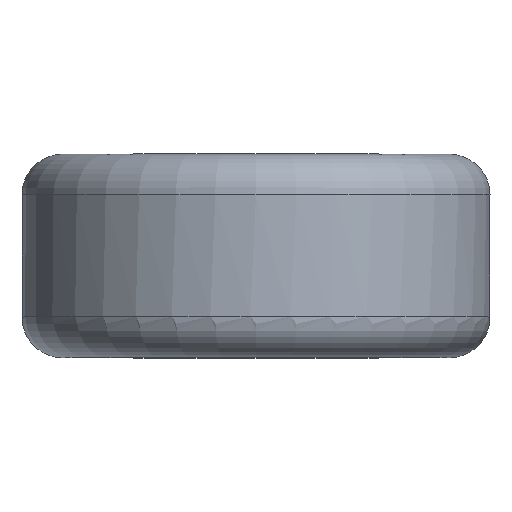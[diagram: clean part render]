
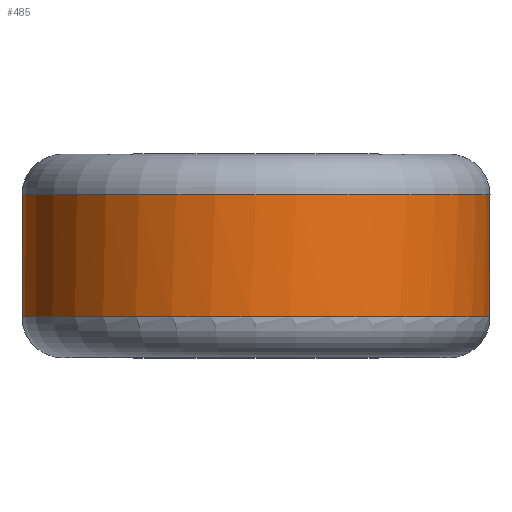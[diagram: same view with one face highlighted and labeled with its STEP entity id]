
A CAD part, top view. The second image highlights one B-rep face of the part: STEP entity #485.
In plain terms, the highlighted cylindrical face has radius 5.75 mm (diameter 11.5 mm), a full revolution.
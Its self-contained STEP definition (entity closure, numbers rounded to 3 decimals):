
#48=LINE('',#2154,#53);
#53=VECTOR('',#676,5.75);
#62=CYLINDRICAL_SURFACE('',#559,5.75);
#86=FACE_OUTER_BOUND('',#117,.T.);
#117=EDGE_LOOP('',(#412,#413,#414,#415,#416,#417,#418,#419,#420,#421,#422,
#423));
#145=CIRCLE('',#543,5.75);
#146=CIRCLE('',#544,5.75);
#147=CIRCLE('',#545,5.75);
#153=CIRCLE('',#552,5.75);
#154=CIRCLE('',#553,5.75);
#155=CIRCLE('',#554,5.75);
#177=B_SPLINE_CURVE_WITH_KNOTS('',3,(#966,#967,#968,#969,#970,#971,#972,
#973,#974,#975,#976,#977,#978,#979,#980,#981,#982,#983,#984,#985,#986,#987,
#988,#989,#990),.UNSPECIFIED.,.F.,.F.,(4,3,3,3,3,3,3,3,4),(-0.189,
-0.154,-0.118,-0.114,-0.109,
-0.1,-0.092,-0.083,-0.067),
 .UNSPECIFIED.);
#178=B_SPLINE_CURVE_WITH_KNOTS('',3,(#991,#992,#993,#994,#995,#996,#997,
#998,#999),.UNSPECIFIED.,.F.,.F.,(4,1,1,1,1,1,4),(-0.345,-0.343,
-0.325,-0.307,-0.289,-0.254,
-0.219),.UNSPECIFIED.);
#186=B_SPLINE_CURVE_WITH_KNOTS('',3,(#1577,#1578,#1579,#1580,#1581,#1582,
#1583,#1584,#1585,#1586,#1587,#1588,#1589,#1590,#1591,#1592,#1593,#1594,
#1595,#1596,#1597,#1598),.UNSPECIFIED.,.F.,.F.,(4,3,3,3,3,3,3,4),(-0.147,
-0.129,-0.111,-0.094,-0.076,
-0.041,-0.027,-0.025),
 .UNSPECIFIED.);
#187=B_SPLINE_CURVE_WITH_KNOTS('',3,(#1599,#1600,#1601,#1602,#1603,#1604,
#1605,#1606,#1607,#1608),.UNSPECIFIED.,.F.,.F.,(4,1,1,1,1,1,1,4),(-0.303,
-0.283,-0.265,-0.247,-0.23,
-0.212,-0.194,-0.176),.UNSPECIFIED.);
#207=VERTEX_POINT('',#892);
#212=VERTEX_POINT('',#963);
#213=VERTEX_POINT('',#965);
#217=VERTEX_POINT('',#1412);
#218=VERTEX_POINT('',#1415);
#219=VERTEX_POINT('',#1499);
#224=VERTEX_POINT('',#1574);
#225=VERTEX_POINT('',#1576);
#229=VERTEX_POINT('',#2021);
#230=VERTEX_POINT('',#2024);
#266=EDGE_CURVE('',#212,#213,#177,.T.);
#267=EDGE_CURVE('',#213,#207,#178,.T.);
#274=EDGE_CURVE('',#217,#212,#145,.T.);
#275=EDGE_CURVE('',#207,#218,#146,.T.);
#276=EDGE_CURVE('',#218,#217,#147,.T.);
#283=EDGE_CURVE('',#224,#225,#186,.T.);
#284=EDGE_CURVE('',#225,#219,#187,.T.);
#291=EDGE_CURVE('',#229,#224,#153,.T.);
#292=EDGE_CURVE('',#219,#230,#154,.T.);
#293=EDGE_CURVE('',#230,#229,#155,.T.);
#298=EDGE_CURVE('',#230,#218,#48,.T.);
#412=ORIENTED_EDGE('',*,*,#283,.F.);
#413=ORIENTED_EDGE('',*,*,#291,.F.);
#414=ORIENTED_EDGE('',*,*,#293,.F.);
#415=ORIENTED_EDGE('',*,*,#298,.T.);
#416=ORIENTED_EDGE('',*,*,#275,.F.);
#417=ORIENTED_EDGE('',*,*,#267,.F.);
#418=ORIENTED_EDGE('',*,*,#266,.F.);
#419=ORIENTED_EDGE('',*,*,#274,.F.);
#420=ORIENTED_EDGE('',*,*,#276,.F.);
#421=ORIENTED_EDGE('',*,*,#298,.F.);
#422=ORIENTED_EDGE('',*,*,#292,.F.);
#423=ORIENTED_EDGE('',*,*,#284,.F.);
#485=ADVANCED_FACE('',(#86),#62,.T.);
#543=AXIS2_PLACEMENT_3D('',#1414,#642,#643);
#544=AXIS2_PLACEMENT_3D('',#1416,#644,#645);
#545=AXIS2_PLACEMENT_3D('',#1417,#646,#647);
#552=AXIS2_PLACEMENT_3D('',#2023,#660,#661);
#553=AXIS2_PLACEMENT_3D('',#2025,#662,#663);
#554=AXIS2_PLACEMENT_3D('',#2026,#664,#665);
#559=AXIS2_PLACEMENT_3D('',#2153,#674,#675);
#642=DIRECTION('center_axis',(0.,1.,0.));
#643=DIRECTION('ref_axis',(-1.,0.,0.));
#644=DIRECTION('center_axis',(0.,1.,0.));
#645=DIRECTION('ref_axis',(-1.,0.,0.));
#646=DIRECTION('center_axis',(0.,1.,0.));
#647=DIRECTION('ref_axis',(-1.,0.,0.));
#660=DIRECTION('center_axis',(0.,-1.,0.));
#661=DIRECTION('ref_axis',(-1.,0.,0.));
#662=DIRECTION('center_axis',(0.,-1.,0.));
#663=DIRECTION('ref_axis',(-1.,0.,0.));
#664=DIRECTION('center_axis',(0.,-1.,0.));
#665=DIRECTION('ref_axis',(-1.,0.,0.));
#674=DIRECTION('center_axis',(0.,-1.,0.));
#675=DIRECTION('ref_axis',(1.,0.,0.));
#676=DIRECTION('',(0.,1.,0.));
#892=CARTESIAN_POINT('',(-3.967,1.5,-4.162));
#963=CARTESIAN_POINT('',(-3.623,1.5,-4.465));
#965=CARTESIAN_POINT('',(-3.767,0.06,-4.344));
#966=CARTESIAN_POINT('Ctrl Pts',(-3.623,1.5,-4.465));
#967=CARTESIAN_POINT('Ctrl Pts',(-3.486,1.434,-4.576));
#968=CARTESIAN_POINT('Ctrl Pts',(-3.365,1.291,-4.663));
#969=CARTESIAN_POINT('Ctrl Pts',(-3.301,1.113,-4.708));
#970=CARTESIAN_POINT('Ctrl Pts',(-3.236,0.935,-4.754));
#971=CARTESIAN_POINT('Ctrl Pts',(-3.229,0.722,-4.758));
#972=CARTESIAN_POINT('Ctrl Pts',(-3.283,0.538,-4.72));
#973=CARTESIAN_POINT('Ctrl Pts',(-3.29,0.515,-4.715));
#974=CARTESIAN_POINT('Ctrl Pts',(-3.298,0.493,-4.71));
#975=CARTESIAN_POINT('Ctrl Pts',(-3.306,0.471,-4.704));
#976=CARTESIAN_POINT('Ctrl Pts',(-3.315,0.449,-4.698));
#977=CARTESIAN_POINT('Ctrl Pts',(-3.324,0.427,-4.691));
#978=CARTESIAN_POINT('Ctrl Pts',(-3.334,0.406,-4.684));
#979=CARTESIAN_POINT('Ctrl Pts',(-3.354,0.365,-4.67));
#980=CARTESIAN_POINT('Ctrl Pts',(-3.378,0.326,-4.653));
#981=CARTESIAN_POINT('Ctrl Pts',(-3.404,0.29,-4.634));
#982=CARTESIAN_POINT('Ctrl Pts',(-3.43,0.254,-4.615));
#983=CARTESIAN_POINT('Ctrl Pts',(-3.458,0.222,-4.594));
#984=CARTESIAN_POINT('Ctrl Pts',(-3.488,0.193,-4.57));
#985=CARTESIAN_POINT('Ctrl Pts',(-3.519,0.165,-4.547));
#986=CARTESIAN_POINT('Ctrl Pts',(-3.551,0.14,-4.522));
#987=CARTESIAN_POINT('Ctrl Pts',(-3.584,0.12,-4.496));
#988=CARTESIAN_POINT('Ctrl Pts',(-3.643,0.086,-4.449));
#989=CARTESIAN_POINT('Ctrl Pts',(-3.705,0.065,-4.398));
#990=CARTESIAN_POINT('Ctrl Pts',(-3.766,0.059,-4.344));
#991=CARTESIAN_POINT('Ctrl Pts',(-3.766,0.059,-4.344));
#992=CARTESIAN_POINT('Ctrl Pts',(-3.775,0.059,-4.336));
#993=CARTESIAN_POINT('Ctrl Pts',(-3.855,0.055,-4.267));
#994=CARTESIAN_POINT('Ctrl Pts',(-4.001,0.096,-4.132));
#995=CARTESIAN_POINT('Ctrl Pts',(-4.166,0.27,-3.965));
#996=CARTESIAN_POINT('Ctrl Pts',(-4.302,0.61,-3.815));
#997=CARTESIAN_POINT('Ctrl Pts',(-4.294,1.14,-3.826));
#998=CARTESIAN_POINT('Ctrl Pts',(-4.095,1.434,-4.041));
#999=CARTESIAN_POINT('Ctrl Pts',(-3.967,1.5,-4.162));
#1412=CARTESIAN_POINT('',(0.,1.5,5.75));
#1414=CARTESIAN_POINT('Origin',(0.,1.5,0.));
#1415=CARTESIAN_POINT('',(-5.75,1.5,0.));
#1416=CARTESIAN_POINT('Origin',(0.,1.5,0.));
#1417=CARTESIAN_POINT('Origin',(0.,1.5,0.));
#1499=CARTESIAN_POINT('',(3.967,-1.5,-4.162));
#1574=CARTESIAN_POINT('',(3.623,-1.5,-4.465));
#1576=CARTESIAN_POINT('',(3.767,-0.06,-4.344));
#1577=CARTESIAN_POINT('Ctrl Pts',(3.623,-1.5,-4.465));
#1578=CARTESIAN_POINT('Ctrl Pts',(3.555,-1.467,-4.52));
#1579=CARTESIAN_POINT('Ctrl Pts',(3.49,-1.415,-4.57));
#1580=CARTESIAN_POINT('Ctrl Pts',(3.435,-1.349,-4.611));
#1581=CARTESIAN_POINT('Ctrl Pts',(3.379,-1.283,-4.653));
#1582=CARTESIAN_POINT('Ctrl Pts',(3.333,-1.202,-4.686));
#1583=CARTESIAN_POINT('Ctrl Pts',(3.301,-1.113,-4.708));
#1584=CARTESIAN_POINT('Ctrl Pts',(3.268,-1.024,-4.731));
#1585=CARTESIAN_POINT('Ctrl Pts',(3.25,-0.926,-4.744));
#1586=CARTESIAN_POINT('Ctrl Pts',(3.247,-0.828,-4.746));
#1587=CARTESIAN_POINT('Ctrl Pts',(3.244,-0.729,-4.748));
#1588=CARTESIAN_POINT('Ctrl Pts',(3.256,-0.63,-4.739));
#1589=CARTESIAN_POINT('Ctrl Pts',(3.284,-0.538,-4.72));
#1590=CARTESIAN_POINT('Ctrl Pts',(3.338,-0.355,-4.682));
#1591=CARTESIAN_POINT('Ctrl Pts',(3.451,-0.201,-4.602));
#1592=CARTESIAN_POINT('Ctrl Pts',(3.585,-0.121,-4.496));
#1593=CARTESIAN_POINT('Ctrl Pts',(3.635,-0.091,
-4.456));
#1594=CARTESIAN_POINT('Ctrl Pts',(3.688,-0.071,
-4.412));
#1595=CARTESIAN_POINT('Ctrl Pts',(3.741,-0.063,
-4.367));
#1596=CARTESIAN_POINT('Ctrl Pts',(3.75,-0.062,
-4.359));
#1597=CARTESIAN_POINT('Ctrl Pts',(3.758,-0.061,
-4.352));
#1598=CARTESIAN_POINT('Ctrl Pts',(3.767,-0.06,-4.344));
#1599=CARTESIAN_POINT('Ctrl Pts',(3.767,-0.06,-4.344));
#1600=CARTESIAN_POINT('Ctrl Pts',(3.846,-0.053,
-4.275));
#1601=CARTESIAN_POINT('Ctrl Pts',(3.995,-0.089,
-4.139));
#1602=CARTESIAN_POINT('Ctrl Pts',(4.166,-0.27,-3.965));
#1603=CARTESIAN_POINT('Ctrl Pts',(4.268,-0.525,-3.853));
#1604=CARTESIAN_POINT('Ctrl Pts',(4.299,-0.822,-3.818));
#1605=CARTESIAN_POINT('Ctrl Pts',(4.258,-1.115,-3.865));
#1606=CARTESIAN_POINT('Ctrl Pts',(4.146,-1.361,-3.986));
#1607=CARTESIAN_POINT('Ctrl Pts',(4.031,-1.467,-4.102));
#1608=CARTESIAN_POINT('Ctrl Pts',(3.967,-1.5,-4.162));
#2021=CARTESIAN_POINT('',(0.,-1.5,-5.75));
#2023=CARTESIAN_POINT('Origin',(0.,-1.5,0.));
#2024=CARTESIAN_POINT('',(-5.75,-1.5,0.));
#2025=CARTESIAN_POINT('Origin',(0.,-1.5,0.));
#2026=CARTESIAN_POINT('Origin',(0.,-1.5,0.));
#2153=CARTESIAN_POINT('Origin',(0.,0.,
0.));
#2154=CARTESIAN_POINT('',(-5.75,0.,0.));
